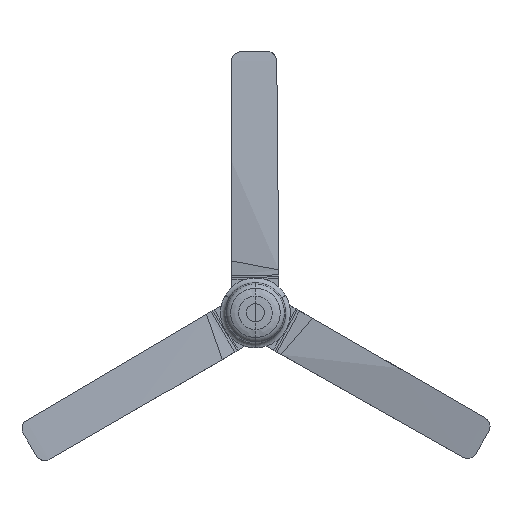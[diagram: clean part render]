
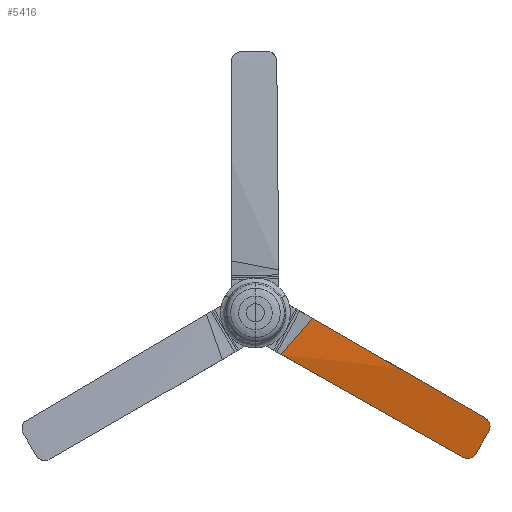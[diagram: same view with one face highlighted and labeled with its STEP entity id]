
A CAD part, top view. The second image highlights one B-rep face of the part: STEP entity #5416.
In plain terms, the highlighted free-form (B-spline) face has degree [3, 1] with [6, 2] control points.
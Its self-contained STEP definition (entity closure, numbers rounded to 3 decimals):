
#524=FACE_OUTER_BOUND('',#848,.T.);
#848=EDGE_LOOP('',(#3661,#3662,#3663,#3664,#3665,#3666));
#1178=B_SPLINE_CURVE_WITH_KNOTS('',3,(#7597,#7598,#7599,#7600,#7601,#7602),
 .UNSPECIFIED.,.F.,.F.,(4,2,4),(0.,50.958,61.887),
 .UNSPECIFIED.);
#1179=B_SPLINE_CURVE_WITH_KNOTS('',3,(#7604,#7605,#7606,#7607,#7608,#7609),
 .UNSPECIFIED.,.F.,.F.,(4,2,4),(-521.247,-260.619,0.),
 .UNSPECIFIED.);
#1180=B_SPLINE_CURVE_WITH_KNOTS('',3,(#7611,#7612,#7613,#7614,#7615,#7616,
#7617,#7618,#7619,#7620),.UNSPECIFIED.,.F.,.F.,(4,2,2,2,4),(0.,8.994,
18.397,27.356,36.792),.UNSPECIFIED.);
#1181=B_SPLINE_CURVE_WITH_KNOTS('',3,(#7622,#7623,#7624,#7625,#7626,#7627),
 .UNSPECIFIED.,.F.,.F.,(4,2,4),(-63.426,-31.713,0.),
 .UNSPECIFIED.);
#1182=B_SPLINE_CURVE_WITH_KNOTS('',3,(#7629,#7630,#7631,#7632,#7633,#7634,
#7635,#7636,#7637,#7638),.UNSPECIFIED.,.F.,.F.,(4,2,2,2,4),(0.,
9.866,19.157,28.795,38.312),
 .UNSPECIFIED.);
#1183=B_SPLINE_CURVE_WITH_KNOTS('',3,(#7639,#7640,#7641,#7642,#7643,#7644,
#7645,#7646,#7647,#7648,#7649,#7650,#7651,#7652,#7653,#7654,#7655,#7656,
#7657,#7658,#7659,#7660),.UNSPECIFIED.,.F.,.F.,(4,3,3,3,3,3,3,4),(-497.537,
-426.498,-349.593,-259.639,-248.773,
-162.589,-74.397,0.),.UNSPECIFIED.);
#2241=VERTEX_POINT('',#7595);
#2242=VERTEX_POINT('',#7596);
#2243=VERTEX_POINT('',#7603);
#2244=VERTEX_POINT('',#7610);
#2245=VERTEX_POINT('',#7621);
#2246=VERTEX_POINT('',#7628);
#2796=EDGE_CURVE('',#2241,#2242,#1178,.T.);
#2797=EDGE_CURVE('',#2243,#2241,#1179,.T.);
#2798=EDGE_CURVE('',#2244,#2243,#1180,.T.);
#2799=EDGE_CURVE('',#2245,#2244,#1181,.T.);
#2800=EDGE_CURVE('',#2246,#2245,#1182,.T.);
#2801=EDGE_CURVE('',#2242,#2246,#1183,.T.);
#3661=ORIENTED_EDGE('',*,*,#2796,.F.);
#3662=ORIENTED_EDGE('',*,*,#2797,.F.);
#3663=ORIENTED_EDGE('',*,*,#2798,.F.);
#3664=ORIENTED_EDGE('',*,*,#2799,.F.);
#3665=ORIENTED_EDGE('',*,*,#2800,.F.);
#3666=ORIENTED_EDGE('',*,*,#2801,.F.);
#5386=B_SPLINE_SURFACE_WITH_KNOTS('',3,1,((#7583,#7584),(#7585,#7586),(#7587,
#7588),(#7589,#7590),(#7591,#7592),(#7593,#7594)),.UNSPECIFIED.,.F.,.F.,
 .F.,(4,1,1,4),(2,2),(0.,0.356,0.711,1.),(0.,1.),
 .UNSPECIFIED.);
#5416=ADVANCED_FACE('',(#524),#5386,.T.);
#7583=CARTESIAN_POINT('Ctrl Pts',(593.622,-273.966,238.912));
#7584=CARTESIAN_POINT('Ctrl Pts',(534.008,-375.279,221.036));
#7585=CARTESIAN_POINT('Ctrl Pts',(540.083,-243.056,241.355));
#7586=CARTESIAN_POINT('Ctrl Pts',(478.269,-343.099,222.548));
#7587=CARTESIAN_POINT('Ctrl Pts',(432.913,-181.181,243.68));
#7588=CARTESIAN_POINT('Ctrl Pts',(366.772,-278.726,224.724));
#7589=CARTESIAN_POINT('Ctrl Pts',(282.225,-94.181,239.743));
#7590=CARTESIAN_POINT('Ctrl Pts',(209.961,-188.191,225.398));
#7591=CARTESIAN_POINT('Ctrl Pts',(185.289,-38.215,233.001));
#7592=CARTESIAN_POINT('Ctrl Pts',(108.919,-129.854,224.439));
#7593=CARTESIAN_POINT('Ctrl Pts',(141.896,-13.162,229.136));
#7594=CARTESIAN_POINT('Ctrl Pts',(63.631,-103.707,223.729));
#7595=CARTESIAN_POINT('',(63.658,-103.723,223.73));
#7596=CARTESIAN_POINT('',(141.682,-13.41,229.121));
#7597=CARTESIAN_POINT('Ctrl Pts',(63.658,-103.723,223.73));
#7598=CARTESIAN_POINT('Ctrl Pts',(74.754,-90.884,224.497));
#7599=CARTESIAN_POINT('Ctrl Pts',(90.549,-72.609,225.588));
#7600=CARTESIAN_POINT('Ctrl Pts',(105.279,-55.564,226.606));
#7601=CARTESIAN_POINT('Ctrl Pts',(132.669,-23.878,228.499));
#7602=CARTESIAN_POINT('Ctrl Pts',(141.682,-13.41,229.121));
#7603=CARTESIAN_POINT('',(517.506,-360.045,222.299));
#7604=CARTESIAN_POINT('Ctrl Pts',(517.506,-360.045,222.299));
#7605=CARTESIAN_POINT('Ctrl Pts',(441.879,-317.333,224.127));
#7606=CARTESIAN_POINT('Ctrl Pts',(366.236,-274.612,225.091));
#7607=CARTESIAN_POINT('Ctrl Pts',(214.943,-189.165,225.5));
#7608=CARTESIAN_POINT('Ctrl Pts',(139.293,-146.44,224.944));
#7609=CARTESIAN_POINT('Ctrl Pts',(63.658,-103.723,223.73));
#7610=CARTESIAN_POINT('',(549.105,-349.61,225.564));
#7611=CARTESIAN_POINT('Ctrl Pts',(549.105,-349.61,225.564));
#7612=CARTESIAN_POINT('Ctrl Pts',(547.667,-352.202,225.112));
#7613=CARTESIAN_POINT('Ctrl Pts',(545.763,-354.508,224.676));
#7614=CARTESIAN_POINT('Ctrl Pts',(541.105,-358.413,223.86));
#7615=CARTESIAN_POINT('Ctrl Pts',(538.36,-359.938,223.49));
#7616=CARTESIAN_POINT('Ctrl Pts',(532.574,-361.844,222.895));
#7617=CARTESIAN_POINT('Ctrl Pts',(529.6,-362.259,222.668));
#7618=CARTESIAN_POINT('Ctrl Pts',(523.48,-362.019,222.357));
#7619=CARTESIAN_POINT('Ctrl Pts',(520.388,-361.307,222.283));
#7620=CARTESIAN_POINT('Ctrl Pts',(517.506,-360.045,222.299));
#7621=CARTESIAN_POINT('',(580.222,-295.175,235.128));
#7622=CARTESIAN_POINT('Ctrl Pts',(580.222,-295.175,235.128));
#7623=CARTESIAN_POINT('Ctrl Pts',(575.036,-304.247,233.533));
#7624=CARTESIAN_POINT('Ctrl Pts',(569.85,-313.32,231.939));
#7625=CARTESIAN_POINT('Ctrl Pts',(559.478,-331.465,228.751));
#7626=CARTESIAN_POINT('Ctrl Pts',(554.291,-340.538,227.157));
#7627=CARTESIAN_POINT('Ctrl Pts',(549.105,-349.61,225.564));
#7628=CARTESIAN_POINT('',(572.084,-261.839,239.779));
#7629=CARTESIAN_POINT('Ctrl Pts',(572.084,-261.839,239.779));
#7630=CARTESIAN_POINT('Ctrl Pts',(574.839,-263.629,239.64));
#7631=CARTESIAN_POINT('Ctrl Pts',(577.22,-265.931,239.403));
#7632=CARTESIAN_POINT('Ctrl Pts',(580.853,-271.146,238.78));
#7633=CARTESIAN_POINT('Ctrl Pts',(582.132,-273.971,238.41));
#7634=CARTESIAN_POINT('Ctrl Pts',(583.62,-280.043,237.558));
#7635=CARTESIAN_POINT('Ctrl Pts',(583.773,-283.245,237.082));
#7636=CARTESIAN_POINT('Ctrl Pts',(582.854,-289.486,236.1));
#7637=CARTESIAN_POINT('Ctrl Pts',(581.806,-292.469,235.606));
#7638=CARTESIAN_POINT('Ctrl Pts',(580.222,-295.175,235.128));
#7639=CARTESIAN_POINT('Ctrl Pts',(141.682,-13.41,229.121));
#7640=CARTESIAN_POINT('Ctrl Pts',(162.159,-25.165,230.94));
#7641=CARTESIAN_POINT('Ctrl Pts',(182.635,-36.929,232.573));
#7642=CARTESIAN_POINT('Ctrl Pts',(203.114,-48.703,234.02));
#7643=CARTESIAN_POINT('Ctrl Pts',(225.284,-61.45,235.587));
#7644=CARTESIAN_POINT('Ctrl Pts',(247.457,-74.209,236.935));
#7645=CARTESIAN_POINT('Ctrl Pts',(269.636,-86.982,238.064));
#7646=CARTESIAN_POINT('Ctrl Pts',(295.577,-101.923,239.385));
#7647=CARTESIAN_POINT('Ctrl Pts',(321.527,-116.883,240.405));
#7648=CARTESIAN_POINT('Ctrl Pts',(347.49,-131.865,241.123));
#7649=CARTESIAN_POINT('Ctrl Pts',(350.627,-133.675,241.21));
#7650=CARTESIAN_POINT('Ctrl Pts',(353.763,-135.485,241.293));
#7651=CARTESIAN_POINT('Ctrl Pts',(356.9,-137.296,241.371));
#7652=CARTESIAN_POINT('Ctrl Pts',(381.778,-151.655,241.989));
#7653=CARTESIAN_POINT('Ctrl Pts',(406.642,-166.021,242.329));
#7654=CARTESIAN_POINT('Ctrl Pts',(431.496,-180.394,242.391));
#7655=CARTESIAN_POINT('Ctrl Pts',(456.93,-195.102,242.455));
#7656=CARTESIAN_POINT('Ctrl Pts',(482.353,-209.818,242.227));
#7657=CARTESIAN_POINT('Ctrl Pts',(507.77,-224.545,241.71));
#7658=CARTESIAN_POINT('Ctrl Pts',(529.211,-236.968,241.273));
#7659=CARTESIAN_POINT('Ctrl Pts',(550.648,-249.399,240.629));
#7660=CARTESIAN_POINT('Ctrl Pts',(572.084,-261.839,239.779));
